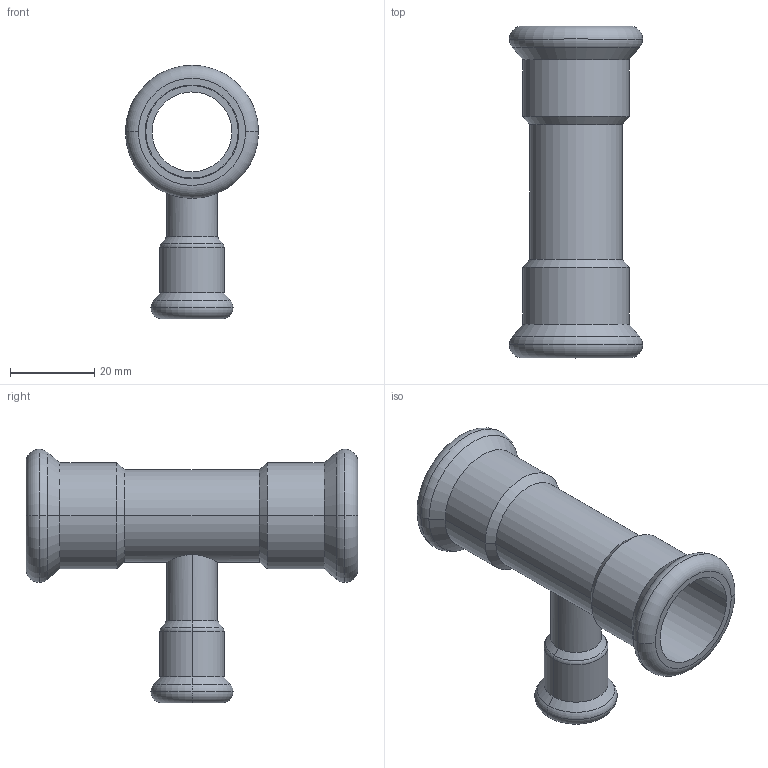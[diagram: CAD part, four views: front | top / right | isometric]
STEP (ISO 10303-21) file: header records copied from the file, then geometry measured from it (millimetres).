
FILE_DESCRIPTION(('CoCreate Modeling STEP Export'),'2;1');
FILE_NAME('C1415 22x12x22.stp','2014-11-11T17:05:04',(''),(''),'CoCreate Modeling STEP processor for AP214 (Solid Model)','CoCreate Modeling 17.00A 17-Jun-2010 (C) Parametric Technology GmbH','');
FILE_SCHEMA(('AUTOMOTIVE_DESIGN { 1 0 10303 214 1 1 1 1 }'));
Length unit declared in the file: millimetre
Products named in the file (2): C1415_22x12x22
Assembly tree (1 placements, depth 2):
  C1415_22x12x22
    C1415_22x12x22
Bounding box: 31.7 x 79 x 60.35 mm (x, y, z)
Volume: 14076.3 mm3; surface area: 15412 mm2
Topology: 1 solids, 1 shells, 62 faces, 127 edges, 75 vertices
Faces by surface type: cylinder 27, torus 14, cone 12, plane 9
Entity records: 2265 total; most frequent: CARTESIAN_POINT 1106, ORIENTED_EDGE 254, DIRECTION 204, EDGE_CURVE 127, AXIS2_PLACEMENT_3D 83, VERTEX_POINT 75, EDGE_LOOP 72, FACE_OUTER_BOUND 62
